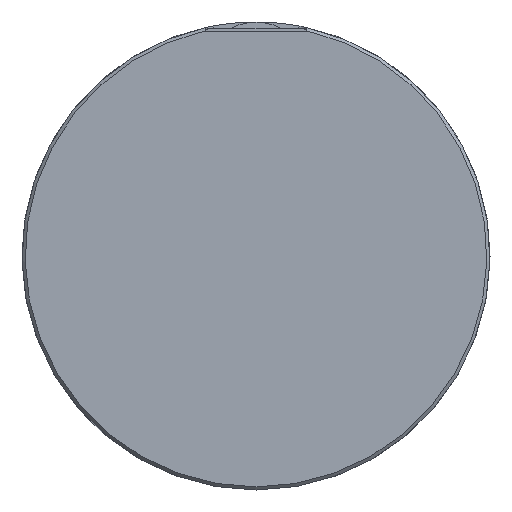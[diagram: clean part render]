
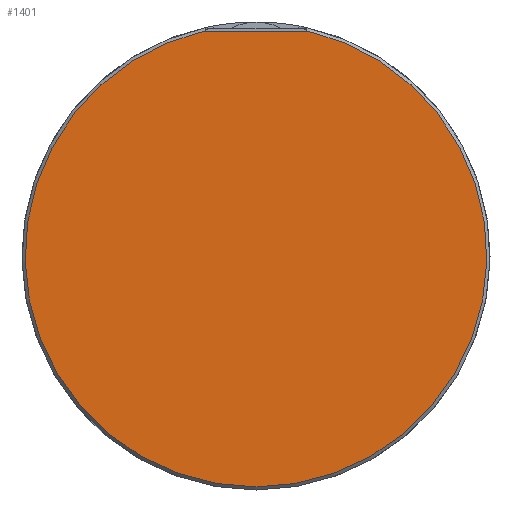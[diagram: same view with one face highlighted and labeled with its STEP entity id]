
A CAD part, front view. The second image highlights one B-rep face of the part: STEP entity #1401.
In plain terms, the highlighted planar face has unit normal (0, -1, 0).
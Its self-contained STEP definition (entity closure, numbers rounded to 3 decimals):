
#97 = ORIENTED_EDGE ( 'NONE', *, *, #2071, .T. ) ;
#190 = AXIS2_PLACEMENT_3D ( 'NONE', #2155, #747, #1926 ) ;
#232 = EDGE_CURVE ( 'NONE', #597, #321, #1372, .T. ) ;
#234 = VECTOR ( 'NONE', #434, 1000. ) ;
#298 = CARTESIAN_POINT ( 'NONE',  ( 16.2, 0., 72.205 ) ) ;
#312 = ORIENTED_EDGE ( 'NONE', *, *, #1426, .F. ) ;
#321 = VERTEX_POINT ( 'NONE', #298 ) ;
#324 = CARTESIAN_POINT ( 'NONE',  ( 0., 0., 0. ) ) ;
#353 = CARTESIAN_POINT ( 'NONE',  ( 16.2, 0., 72. ) ) ;
#434 = DIRECTION ( 'NONE',  ( 0., 0., -1. ) ) ;
#513 = FACE_OUTER_BOUND ( 'NONE', #1407, .T. ) ;
#535 = DIRECTION ( 'NONE',  ( 0., -1., 0. ) ) ;
#572 = VECTOR ( 'NONE', #633, 1000. ) ;
#597 = VERTEX_POINT ( 'NONE', #2137 ) ;
#601 = VERTEX_POINT ( 'NONE', #1217 ) ;
#633 = DIRECTION ( 'NONE',  ( 0., 0., 1. ) ) ;
#657 = CARTESIAN_POINT ( 'NONE',  ( -16.2, 0., 72.5 ) ) ;
#747 = DIRECTION ( 'NONE',  ( 0., 1., 0. ) ) ;
#1217 = CARTESIAN_POINT ( 'NONE',  ( -16.2, 0., 72.205 ) ) ;
#1372 = LINE ( 'NONE', #2593, #572 ) ;
#1401 = ADVANCED_FACE ( 'NONE', ( #513 ), #1909, .F. ) ;
#1407 = EDGE_LOOP ( 'NONE', ( #97, #2686, #312, #1888 ) ) ;
#1426 = EDGE_CURVE ( 'NONE', #1921, #597, #2958, .T. ) ;
#1661 = CARTESIAN_POINT ( 'NONE',  ( -16.2, 0., 72. ) ) ;
#1888 = ORIENTED_EDGE ( 'NONE', *, *, #1977, .F. ) ;
#1900 = LINE ( 'NONE', #657, #234 ) ;
#1909 = PLANE ( 'NONE',  #190 ) ;
#1921 = VERTEX_POINT ( 'NONE', #1661 ) ;
#1926 = DIRECTION ( 'NONE',  ( 1., 0., 0. ) ) ;
#1977 = EDGE_CURVE ( 'NONE', #601, #1921, #1900, .T. ) ;
#1978 = DIRECTION ( 'NONE',  ( 0., 0., 1. ) ) ;
#2018 = DIRECTION ( 'NONE',  ( 1., 0., 0. ) ) ;
#2071 = EDGE_CURVE ( 'NONE', #601, #321, #3045, .T. ) ;
#2137 = CARTESIAN_POINT ( 'NONE',  ( 16.2, 0., 72. ) ) ;
#2155 = CARTESIAN_POINT ( 'NONE',  ( -72., 0., -18.002 ) ) ;
#2182 = AXIS2_PLACEMENT_3D ( 'NONE', #324, #535, #1978 ) ;
#2593 = CARTESIAN_POINT ( 'NONE',  ( 16.2, 0., 72.5 ) ) ;
#2686 = ORIENTED_EDGE ( 'NONE', *, *, #232, .F. ) ;
#2831 = VECTOR ( 'NONE', #2018, 1000. ) ;
#2958 = LINE ( 'NONE', #353, #2831 ) ;
#3045 = CIRCLE ( 'NONE', #2182, 74. ) ;
